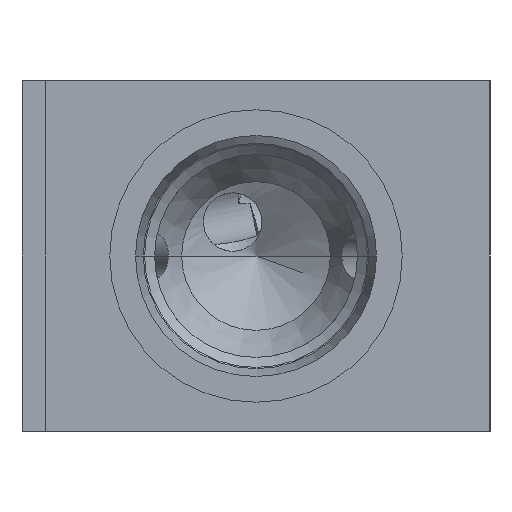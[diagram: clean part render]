
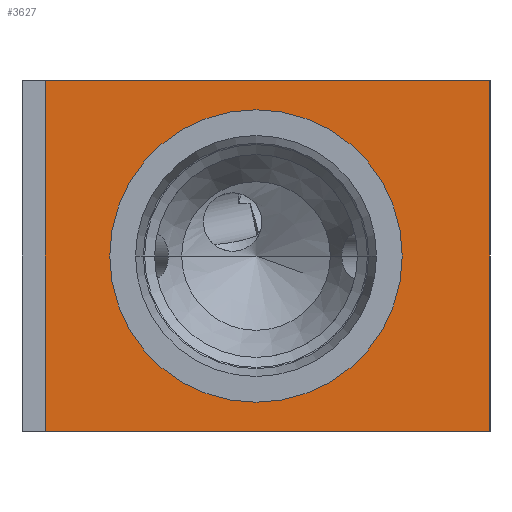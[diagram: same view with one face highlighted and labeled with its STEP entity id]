
A CAD part, left-side view. The second image highlights one B-rep face of the part: STEP entity #3627.
In plain terms, the highlighted planar face has unit normal (-1, 0, 0).
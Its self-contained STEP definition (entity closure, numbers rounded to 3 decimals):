
#26=DIRECTION('',(0.,-1.,0.));
#27=VECTOR('',#26,38.);
#28=CARTESIAN_POINT('',(0.,38.,0.));
#29=LINE('',#28,#27);
#246=DIRECTION('',(0.,-1.,0.));
#247=VECTOR('',#246,38.);
#248=CARTESIAN_POINT('',(0.,38.,30.));
#249=LINE('',#248,#247);
#283=DIRECTION('',(0.,0.,1.));
#284=VECTOR('',#283,30.);
#285=CARTESIAN_POINT('',(0.,0.,0.));
#286=LINE('',#285,#284);
#386=DIRECTION('',(0.,0.,1.));
#387=VECTOR('',#386,30.);
#388=CARTESIAN_POINT('',(0.,38.,0.));
#389=LINE('',#388,#387);
#393=CARTESIAN_POINT('',(0.,20.,15.));
#394=DIRECTION('',(1.,0.,0.));
#395=DIRECTION('',(0.,-1.,0.));
#396=AXIS2_PLACEMENT_3D('',#393,#394,#395);
#401=CARTESIAN_POINT('',(0.,20.,15.));
#402=DIRECTION('',(1.,0.,0.));
#403=DIRECTION('',(0.,1.,0.));
#404=AXIS2_PLACEMENT_3D('',#401,#402,#403);
#3133=CARTESIAN_POINT('',(0.,0.,0.));
#3135=VERTEX_POINT('',#3133);
#3137=CARTESIAN_POINT('',(0.,0.,30.));
#3139=VERTEX_POINT('',#3137);
#3187=CARTESIAN_POINT('',(0.,7.5,15.));
#3188=VERTEX_POINT('',#3187);
#3189=CARTESIAN_POINT('',(0.,32.5,15.));
#3190=VERTEX_POINT('',#3189);
#3368=CARTESIAN_POINT('',(0.,38.,0.));
#3370=VERTEX_POINT('',#3368);
#3380=CARTESIAN_POINT('',(0.,38.,30.));
#3382=VERTEX_POINT('',#3380);
#3610=CARTESIAN_POINT('',(0.,40.,0.));
#3611=DIRECTION('',(-1.,0.,0.));
#3612=DIRECTION('',(0.,-1.,0.));
#3613=AXIS2_PLACEMENT_3D('',#3610,#3611,#3612);
#3614=PLANE('',#3613);
#3615=ORIENTED_EDGE('',*,*,#3426,.T.);
#3616=ORIENTED_EDGE('',*,*,#3537,.T.);
#3617=ORIENTED_EDGE('',*,*,#3567,.F.);
#3618=ORIENTED_EDGE('',*,*,#3399,.F.);
#3619=EDGE_LOOP('',(#3615,#3616,#3617,#3618));
#3620=FACE_OUTER_BOUND('',#3619,.F.);
#3622=ORIENTED_EDGE('',*,*,#3621,.F.);
#3624=ORIENTED_EDGE('',*,*,#3623,.F.);
#3625=EDGE_LOOP('',(#3622,#3624));
#3626=FACE_BOUND('',#3625,.F.);
#397=CIRCLE('',#396,12.5);
#405=CIRCLE('',#404,12.5);
#3399=EDGE_CURVE('',#3370,#3135,#29,.T.);
#3426=EDGE_CURVE('',#3370,#3382,#389,.T.);
#3537=EDGE_CURVE('',#3382,#3139,#249,.T.);
#3567=EDGE_CURVE('',#3135,#3139,#286,.T.);
#3621=EDGE_CURVE('',#3188,#3190,#397,.T.);
#3623=EDGE_CURVE('',#3190,#3188,#405,.T.);
#3627=ADVANCED_FACE('',(#3620,#3626),#3614,.T.);
